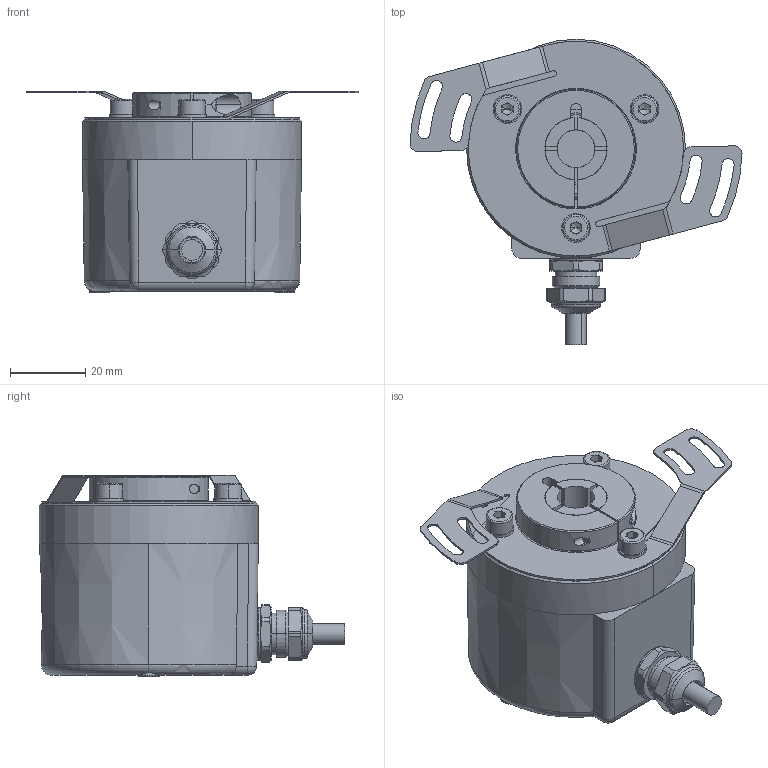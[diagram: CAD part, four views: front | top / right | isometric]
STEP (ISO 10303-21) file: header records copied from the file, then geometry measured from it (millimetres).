
FILE_DESCRIPTION (( 'STEP AP203' ), '1' );
FILE_NAME ('E58HM-SSI-442##.STEP', '2024-11-11T12:29:55', ( '' ), ( '' ), 'SwSTEP 2.0', 'SolidWorks 2023', '' );
FILE_SCHEMA (( 'CONFIG_CONTROL_DESIGN' ));
Length unit declared in the file: millimetre
Products named in the file (1): E58HM-SSI-442##
Bounding box: 87.96 x 80.87 x 53.5 mm (x, y, z)
Volume: 126585.7 mm3; surface area: 26467 mm2
Topology: 12 solids, 16 shells, 594 faces, 1429 edges, 877 vertices
Faces by surface type: plane 284, cylinder 185, cone 74, torus 47, bspline 2, sphere 2
Entity records: 17612 total; most frequent: CARTESIAN_POINT 3581, DIRECTION 3023, ORIENTED_EDGE 2806, EDGE_CURVE 1403, AXIS2_PLACEMENT_3D 1115, VERTEX_POINT 877, LINE 793, VECTOR 793
